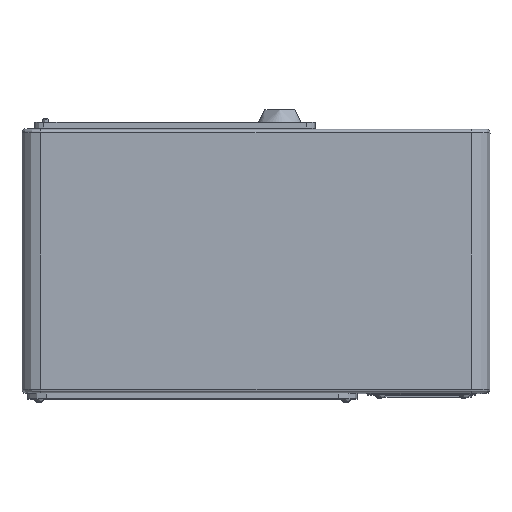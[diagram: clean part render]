
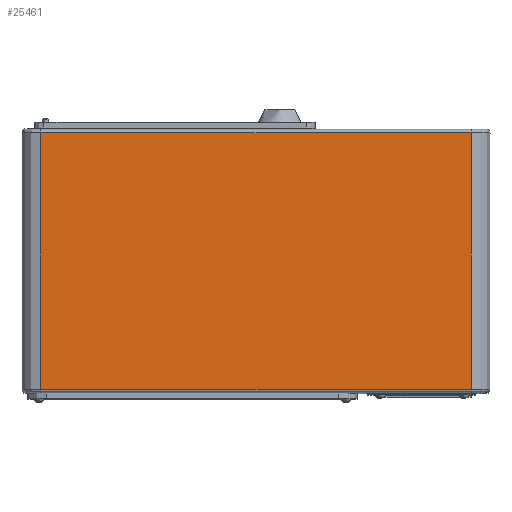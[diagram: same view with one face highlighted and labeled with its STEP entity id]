
A CAD part, top view. The second image highlights one B-rep face of the part: STEP entity #25461.
In plain terms, the highlighted planar face has unit normal (0, 0, 1) as drawn and (0, 1, 0) by its records, which use the part's own axes.
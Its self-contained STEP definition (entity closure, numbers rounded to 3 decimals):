
#18967 = CYLINDRICAL_SURFACE('',#18968,2.);
#18968 = AXIS2_PLACEMENT_3D('',#18969,#18970,#18971);
#18969 = CARTESIAN_POINT('',(57.5,98.,2.));
#18970 = DIRECTION('',(1.,0.,0.));
#18971 = DIRECTION('',(0.,0.707,-0.707));
#22171 = VERTEX_POINT('',#22172);
#22172 = CARTESIAN_POINT('',(115.,100.,2.));
#22211 = CYLINDRICAL_SURFACE('',#22212,10.);
#22212 = AXIS2_PLACEMENT_3D('',#22213,#22214,#22215);
#22213 = CARTESIAN_POINT('',(115.,90.,0.));
#22214 = DIRECTION('',(0.,0.,1.));
#22215 = DIRECTION('',(-1.,0.,0.));
#22444 = VERTEX_POINT('',#22445);
#22445 = CARTESIAN_POINT('',(-115.,100.,2.));
#22484 = CYLINDRICAL_SURFACE('',#22485,10.);
#22485 = AXIS2_PLACEMENT_3D('',#22486,#22487,#22488);
#22486 = CARTESIAN_POINT('',(-115.,90.,0.));
#22487 = DIRECTION('',(0.,0.,1.));
#22488 = DIRECTION('',(0.,-1.,0.));
#22502 = EDGE_CURVE('',#22444,#22171,#22503,.T.);
#22503 = SURFACE_CURVE('',#22504,(#22508,#22515),.PCURVE_S1.);
#22504 = LINE('',#22505,#22506);
#22505 = CARTESIAN_POINT('',(57.5,100.,2.));
#22506 = VECTOR('',#22507,1.);
#22507 = DIRECTION('',(1.,0.,0.));
#22508 = PCURVE('',#18967,#22509);
#22509 = DEFINITIONAL_REPRESENTATION('',(#22510),#22514);
#22510 = LINE('',#22511,#22512);
#22511 = CARTESIAN_POINT('',(7.069,0.));
#22512 = VECTOR('',#22513,1.);
#22513 = DIRECTION('',(0.,1.));
#22514 = ( GEOMETRIC_REPRESENTATION_CONTEXT(2) 
PARAMETRIC_REPRESENTATION_CONTEXT() REPRESENTATION_CONTEXT('2D SPACE',''
  ) );
#22515 = PCURVE('',#22516,#22521);
#22516 = PLANE('',#22517);
#22517 = AXIS2_PLACEMENT_3D('',#22518,#22519,#22520);
#22518 = CARTESIAN_POINT('',(115.,100.,0.));
#22519 = DIRECTION('',(0.,1.,0.));
#22520 = DIRECTION('',(-1.,0.,0.));
#22521 = DEFINITIONAL_REPRESENTATION('',(#22522),#22526);
#22522 = LINE('',#22523,#22524);
#22523 = CARTESIAN_POINT('',(57.5,2.));
#22524 = VECTOR('',#22525,1.);
#22525 = DIRECTION('',(-1.,0.));
#22526 = ( GEOMETRIC_REPRESENTATION_CONTEXT(2) 
PARAMETRIC_REPRESENTATION_CONTEXT() REPRESENTATION_CONTEXT('2D SPACE',''
  ) );
#22794 = EDGE_CURVE('',#22171,#22795,#22797,.T.);
#22795 = VERTEX_POINT('',#22796);
#22796 = CARTESIAN_POINT('',(115.,100.,139.));
#22797 = SURFACE_CURVE('',#22798,(#22802,#22809),.PCURVE_S1.);
#22798 = LINE('',#22799,#22800);
#22799 = CARTESIAN_POINT('',(115.,100.,0.));
#22800 = VECTOR('',#22801,1.);
#22801 = DIRECTION('',(0.,0.,1.));
#22802 = PCURVE('',#22211,#22803);
#22803 = DEFINITIONAL_REPRESENTATION('',(#22804),#22808);
#22804 = LINE('',#22805,#22806);
#22805 = CARTESIAN_POINT('',(4.712,0.));
#22806 = VECTOR('',#22807,1.);
#22807 = DIRECTION('',(0.,1.));
#22808 = ( GEOMETRIC_REPRESENTATION_CONTEXT(2) 
PARAMETRIC_REPRESENTATION_CONTEXT() REPRESENTATION_CONTEXT('2D SPACE',''
  ) );
#22809 = PCURVE('',#22516,#22810);
#22810 = DEFINITIONAL_REPRESENTATION('',(#22811),#22815);
#22811 = LINE('',#22812,#22813);
#22812 = CARTESIAN_POINT('',(0.,0.));
#22813 = VECTOR('',#22814,1.);
#22814 = DIRECTION('',(0.,1.));
#22815 = ( GEOMETRIC_REPRESENTATION_CONTEXT(2) 
PARAMETRIC_REPRESENTATION_CONTEXT() REPRESENTATION_CONTEXT('2D SPACE',''
  ) );
#22851 = VERTEX_POINT('',#22852);
#22852 = CARTESIAN_POINT('',(-115.,100.,139.));
#22872 = CYLINDRICAL_SURFACE('',#22873,2.);
#22873 = AXIS2_PLACEMENT_3D('',#22874,#22875,#22876);
#22874 = CARTESIAN_POINT('',(57.5,98.,139.));
#22875 = DIRECTION('',(-1.,0.,0.));
#22876 = DIRECTION('',(0.,0.707,0.707));
#23352 = EDGE_CURVE('',#22795,#22851,#23353,.T.);
#23353 = SURFACE_CURVE('',#23354,(#23358,#23365),.PCURVE_S1.);
#23354 = LINE('',#23355,#23356);
#23355 = CARTESIAN_POINT('',(57.5,100.,139.));
#23356 = VECTOR('',#23357,1.);
#23357 = DIRECTION('',(-1.,0.,0.));
#23358 = PCURVE('',#22872,#23359);
#23359 = DEFINITIONAL_REPRESENTATION('',(#23360),#23364);
#23360 = LINE('',#23361,#23362);
#23361 = CARTESIAN_POINT('',(7.069,0.));
#23362 = VECTOR('',#23363,1.);
#23363 = DIRECTION('',(0.,1.));
#23364 = ( GEOMETRIC_REPRESENTATION_CONTEXT(2) 
PARAMETRIC_REPRESENTATION_CONTEXT() REPRESENTATION_CONTEXT('2D SPACE',''
  ) );
#23365 = PCURVE('',#22516,#23366);
#23366 = DEFINITIONAL_REPRESENTATION('',(#23367),#23371);
#23367 = LINE('',#23368,#23369);
#23368 = CARTESIAN_POINT('',(57.5,139.));
#23369 = VECTOR('',#23370,1.);
#23370 = DIRECTION('',(1.,0.));
#23371 = ( GEOMETRIC_REPRESENTATION_CONTEXT(2) 
PARAMETRIC_REPRESENTATION_CONTEXT() REPRESENTATION_CONTEXT('2D SPACE',''
  ) );
#23441 = EDGE_CURVE('',#22444,#22851,#23442,.T.);
#23442 = SURFACE_CURVE('',#23443,(#23447,#23454),.PCURVE_S1.);
#23443 = LINE('',#23444,#23445);
#23444 = CARTESIAN_POINT('',(-115.,100.,0.));
#23445 = VECTOR('',#23446,1.);
#23446 = DIRECTION('',(0.,0.,1.));
#23447 = PCURVE('',#22484,#23448);
#23448 = DEFINITIONAL_REPRESENTATION('',(#23449),#23453);
#23449 = LINE('',#23450,#23451);
#23450 = CARTESIAN_POINT('',(3.142,0.));
#23451 = VECTOR('',#23452,1.);
#23452 = DIRECTION('',(0.,1.));
#23453 = ( GEOMETRIC_REPRESENTATION_CONTEXT(2) 
PARAMETRIC_REPRESENTATION_CONTEXT() REPRESENTATION_CONTEXT('2D SPACE',''
  ) );
#23454 = PCURVE('',#22516,#23455);
#23455 = DEFINITIONAL_REPRESENTATION('',(#23456),#23460);
#23456 = LINE('',#23457,#23458);
#23457 = CARTESIAN_POINT('',(230.,0.));
#23458 = VECTOR('',#23459,1.);
#23459 = DIRECTION('',(0.,1.));
#23460 = ( GEOMETRIC_REPRESENTATION_CONTEXT(2) 
PARAMETRIC_REPRESENTATION_CONTEXT() REPRESENTATION_CONTEXT('2D SPACE',''
  ) );
#25461 = ADVANCED_FACE('',(#25462),#22516,.T.);
#25462 = FACE_BOUND('',#25463,.T.);
#25463 = EDGE_LOOP('',(#25464,#25465,#25466,#25467));
#25464 = ORIENTED_EDGE('',*,*,#22502,.F.);
#25465 = ORIENTED_EDGE('',*,*,#23441,.T.);
#25466 = ORIENTED_EDGE('',*,*,#23352,.F.);
#25467 = ORIENTED_EDGE('',*,*,#22794,.F.);
